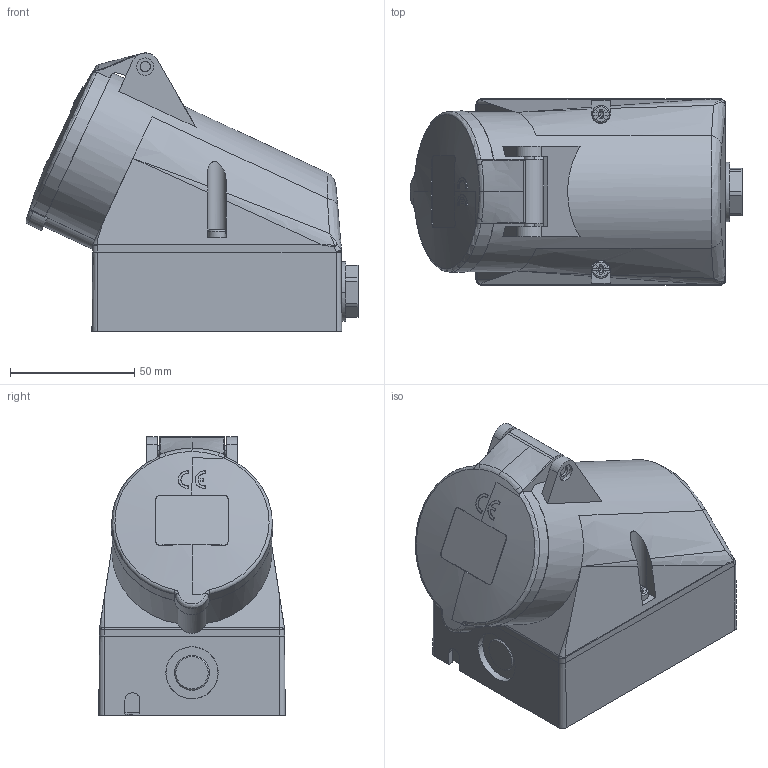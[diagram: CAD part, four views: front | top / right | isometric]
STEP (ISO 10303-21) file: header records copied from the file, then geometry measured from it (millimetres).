
FILE_DESCRIPTION((''),'2;1');
FILE_NAME('3331_SW0001','2017-11-16T',('gisse'),('MENNEKES'),'PRO/ENGINEER BY PARAMETRIC TECHNOLOGY CORPORATION, 2015440','PRO/ENGINEER BY PARAMETRIC TECHNOLOGY CORPORATION, 2015440','');
FILE_SCHEMA(('AUTOMOTIVE_DESIGN { 1 0 10303 214 1 1 1 1 }'));
Length unit declared in the file: millimetre
Products named in the file (1): 3331_SW0001
Bounding box: 133.63 x 75.06 x 111.94 mm (x, y, z)
Volume: 588563.2 mm3; surface area: 48794.7 mm2
Topology: 1 solids, 1 shells, 319 faces, 842 edges, 537 vertices
Faces by surface type: plane 131, cylinder 83, bspline 47, cone 38, sphere 12, torus 8
Entity records: 18711 total; most frequent: CARTESIAN_POINT 5298, ORIENTED_EDGE 1676, DIRECTION 1350, PRESENTATION_STYLE_ASSIGNMENT 1147, STYLED_ITEM 969, CURVE_STYLE 838, EDGE_CURVE 838, VERTEX_POINT 537
